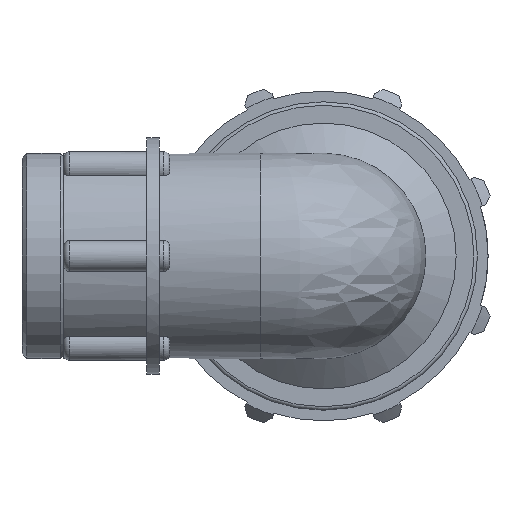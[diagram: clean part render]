
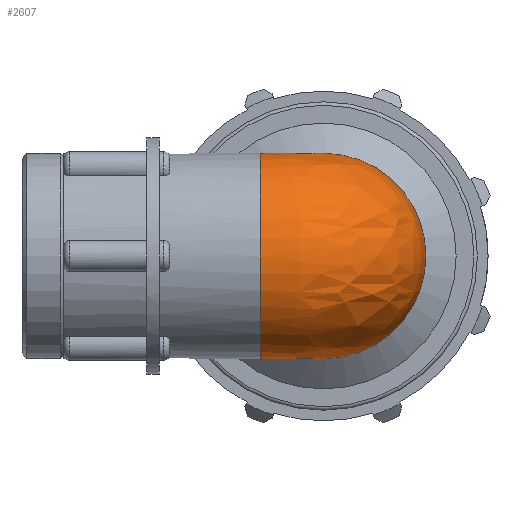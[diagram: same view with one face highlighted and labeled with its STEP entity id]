
A CAD part, left-side view. The second image highlights one B-rep face of the part: STEP entity #2607.
In plain terms, the highlighted free-form (B-spline) face has degree [2, 2] with [7, 3] control points.
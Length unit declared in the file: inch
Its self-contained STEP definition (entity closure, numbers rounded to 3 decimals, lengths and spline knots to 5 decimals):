
#63=(
BOUNDED_SURFACE()
B_SPLINE_SURFACE(2,2,((#4447,#4448,#4449),(#4450,#4451,#4452),(#4453,#4454,
#4455),(#4456,#4457,#4458),(#4459,#4460,#4461),(#4462,#4463,#4464),(#4465,
#4466,#4467)),.UNSPECIFIED.,.F.,.F.,.F.)
B_SPLINE_SURFACE_WITH_KNOTS((3,2,2,3),(3,3),(-2.23367,-0.74456,
0.74456,2.23367),(-3.14159,-1.5708),
 .UNSPECIFIED.)
GEOMETRIC_REPRESENTATION_ITEM()
RATIONAL_B_SPLINE_SURFACE(((1.,0.707,1.),(0.735,
0.52,0.735),(1.,0.707,1.),(0.735,
0.52,0.735),(1.,0.707,1.),(0.735,
0.52,0.735),(1.,0.707,1.)))
REPRESENTATION_ITEM('')
SURFACE()
);
#513=FACE_OUTER_BOUND('',#653,.T.);
#653=EDGE_LOOP('',(#1883,#1884));
#829=CIRCLE('',#2835,0.61717);
#839=CIRCLE('',#2858,0.61717);
#1056=VERTEX_POINT('',#4386);
#1057=VERTEX_POINT('',#4388);
#1359=EDGE_CURVE('',#1057,#1056,#829,.T.);
#1372=EDGE_CURVE('',#1057,#1056,#839,.T.);
#1883=ORIENTED_EDGE('',*,*,#1359,.T.);
#1884=ORIENTED_EDGE('',*,*,#1372,.F.);
#2607=ADVANCED_FACE('',(#513),#63,.F.);
#2835=AXIS2_PLACEMENT_3D('',#4389,#3311,#3312);
#2858=AXIS2_PLACEMENT_3D('',#4417,#3357,#3358);
#3311=DIRECTION('center_axis',(0.,-1.,0.));
#3312=DIRECTION('ref_axis',(-1.,0.,0.));
#3357=DIRECTION('center_axis',(1.,0.,0.));
#3358=DIRECTION('ref_axis',(0.,-1.,0.));
#4386=CARTESIAN_POINT('',(0.3798,0.3798,-0.48647));
#4388=CARTESIAN_POINT('',(0.3798,0.3798,0.48647));
#4389=CARTESIAN_POINT('Origin',(0.,0.3798,
0.));
#4417=CARTESIAN_POINT('Origin',(0.3798,0.,
0.));
#4447=CARTESIAN_POINT('Ctrl Pts',(0.3798,0.3798,-0.48647));
#4448=CARTESIAN_POINT('Ctrl Pts',(0.3798,0.3798,-0.48647));
#4449=CARTESIAN_POINT('Ctrl Pts',(0.3798,0.3798,-0.48647));
#4450=CARTESIAN_POINT('Ctrl Pts',(-0.06848,0.3798,
-0.83644));
#4451=CARTESIAN_POINT('Ctrl Pts',(-0.06848,-0.06848,
-0.83644));
#4452=CARTESIAN_POINT('Ctrl Pts',(0.3798,-0.06848,
-0.83644));
#4453=CARTESIAN_POINT('Ctrl Pts',(-0.45386,0.3798,
-0.41822));
#4454=CARTESIAN_POINT('Ctrl Pts',(-0.45386,-0.45386,
-0.41822));
#4455=CARTESIAN_POINT('Ctrl Pts',(0.3798,-0.45386,
-0.41822));
#4456=CARTESIAN_POINT('Ctrl Pts',(-0.83924,0.3798,
0.));
#4457=CARTESIAN_POINT('Ctrl Pts',(-0.83924,-0.83924,
0.));
#4458=CARTESIAN_POINT('Ctrl Pts',(0.3798,-0.83924,
0.));
#4459=CARTESIAN_POINT('Ctrl Pts',(-0.45386,0.3798,
0.41822));
#4460=CARTESIAN_POINT('Ctrl Pts',(-0.45386,-0.45386,
0.41822));
#4461=CARTESIAN_POINT('Ctrl Pts',(0.3798,-0.45386,
0.41822));
#4462=CARTESIAN_POINT('Ctrl Pts',(-0.06848,0.3798,
0.83644));
#4463=CARTESIAN_POINT('Ctrl Pts',(-0.06848,-0.06848,
0.83644));
#4464=CARTESIAN_POINT('Ctrl Pts',(0.3798,-0.06848,
0.83644));
#4465=CARTESIAN_POINT('Ctrl Pts',(0.3798,0.3798,0.48647));
#4466=CARTESIAN_POINT('Ctrl Pts',(0.3798,0.3798,0.48647));
#4467=CARTESIAN_POINT('Ctrl Pts',(0.3798,0.3798,0.48647));
